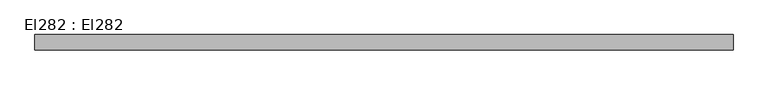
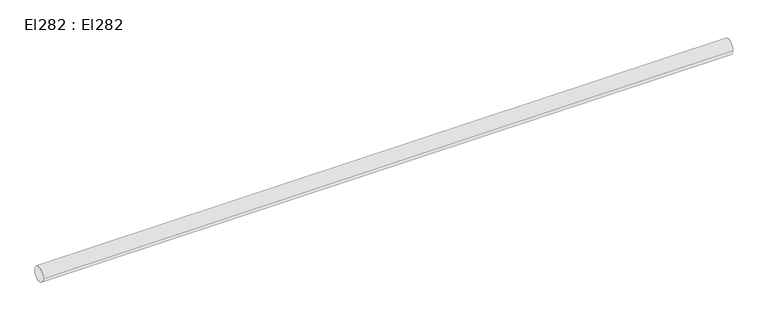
"""IFC4 building model written with IfcOpenShell, lengths in millimetres: cable carrier segment geometry, El282 : El282."""

from ifc_helpers import new_model, si_unit, point, frame, frame_2d, origin, place, context, project, spatial, circle_curve, trimmed, segment, composite_curve, outline, extrude, source, transform, mapped, element, save


def el282_el282_b898818b(model_context):
    return source(origin(), model_context, "Body", "SweptSolid", [
        extrude(outline(composite_curve([segment(trimmed(circle_curve(frame_2d((14766.3, 2950.0)), 37.5), [point((14728.8, 2950.0))], [point((14803.8, 2950.0))], False, "CARTESIAN"), True, "CONTINUOUS"), segment(trimmed(circle_curve(frame_2d((14766.3, 2950.0)), 37.5), [point((14803.8, 2950.0))], [point((14728.8, 2950.0))], False, "CARTESIAN"), True, "CONTINUOUS")], self_intersect=False)), frame((15184.68, 0.0, 0.0), z_axis=(1.0, 0.0, 0.0), x_axis=(0.0, 1.0, 0.0)), (0.0, 0.0, 1.0), 3417.05),
    ])


if __name__ == "__main__":
    model = new_model("IFC4")
    model_context = context("Model", 3, world=origin())
    ifc_project = project(units=[si_unit("LENGTHUNIT", "METRE", prefix="MILLI")], contexts=[model_context])
    site = spatial("IfcSite", under=ifc_project)
    building = spatial("IfcBuilding", under=site)
    placement = place(None, origin())
    el282_el282_shape = el282_el282_b898818b(model_context)
    element("IfcCableCarrierSegment", 1, ObjectType="El282 : El282", at=placement, inside=building, context=model_context, shape_type="MappedRepresentation", body=[
        mapped(el282_el282_shape, transform((0.0, 0.0, 0.0), x_axis=(1.0, 0.0, 0.0), y_axis=(0.0, 1.0, 0.0), z_axis=(0.0, 0.0, 1.0))),
    ])
    save(model, "model.ifc")
